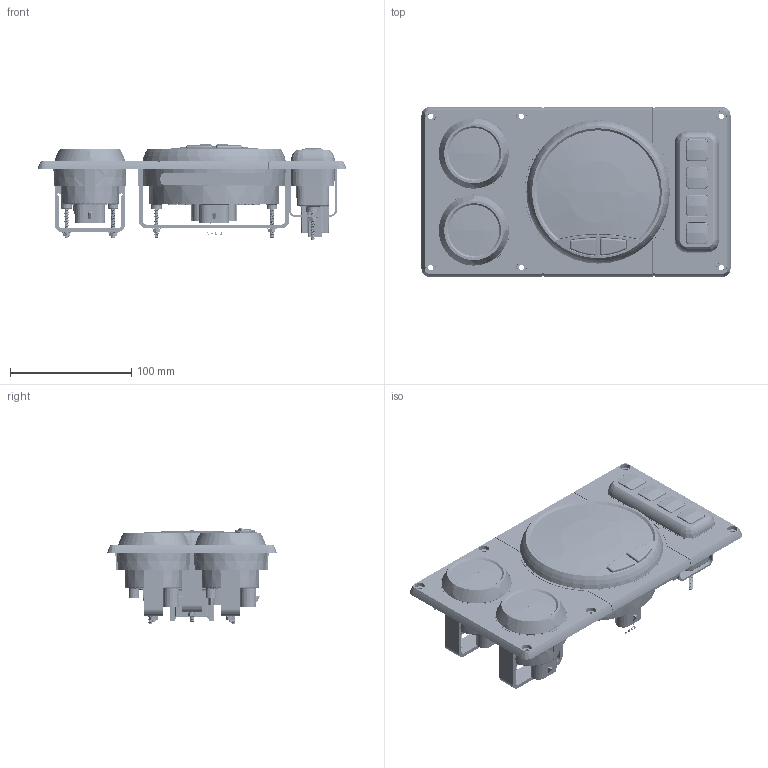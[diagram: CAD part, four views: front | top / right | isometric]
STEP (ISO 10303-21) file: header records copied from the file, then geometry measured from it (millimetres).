
FILE_DESCRIPTION((''),'2;1');
FILE_NAME('0_C35_PANEL_ASM','2018-12-21T',('ib46307'),(''),'PRO/ENGINEER BY PARAMETRIC TECHNOLOGY CORPORATION, 2015360','PRO/ENGINEER BY PARAMETRIC TECHNOLOGY CORPORATION, 2015360','');
FILE_SCHEMA(('CONFIG_CONTROL_DESIGN'));
Length unit declared in the file: inch
Products named in the file (149): 4571-11045-01_1; 4554-11009-01_1; 8720-00002-01_1; PRT0001; FES-2INCH-LABEL_1; 8720-00002-01_ASM_1_ASM; 5509-11716-01_1; PRT0002; PRT0003; PRT0004; 5509-11716-02S_ASM_1_ASM; 5551-10542-03_1; 8722-00000-01_1; 3544-10210-01_1; 8723-001XX-01_1; 8723-00208-01_GRAPHIC_1; 8723-00208-01_ASM_1_ASM; 8726-46000-01_1; 8754-90015-01_1; 8724-03001-01_1; 8724-04001-03_ASM_1_ASM; 8725-00000-02_1; 8726-00000-01_1; 4531-10625-01_1; 8000-01380-01_1; 2525-10054-02_1; 8620-00217-01_ASM_1_ASM; 4522-10448-01_1; PRT0009; PRT0010; GAUGE2_ASM; PRT0005; PRT0006; 8723-00207-01_GRAPHIC_1; 8723-00207-01_ASM_1_ASM; PRT0007; 8000-01379-01_1; PRT0008; 8620-00216-01_ASM_1_ASM; GAUGE1_ASM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
Assembly tree (232 placements, depth 9):
  0_C35_PANEL_ASM
    8960-00214-01_ASM_1_ASM
      4571-11045-01_1
      GAUGE2_ASM
        4554-11009-01_1
        8620-00217-01_ASM_1_ASM
          8720-00002-01_ASM_1_ASM
            8720-00002-01_1
            PRT0001  x2
            FES-2INCH-LABEL_1
          5509-11716-02S_ASM_1_ASM
            5509-11716-01_1
            PRT0002
            PRT0003  x3
            PRT0004
          5551-10542-03_1
          8722-00000-01_1
          3544-10210-01_1  x2
          8723-00208-01_ASM_1_ASM
            8723-001XX-01_1
            8723-00208-01_GRAPHIC_1
          8726-46000-01_1
          8724-04001-03_ASM_1_ASM
            8754-90015-01_1
            8724-03001-01_1
          8725-00000-02_1
          8726-00000-01_1
          4531-10625-01_1
          8000-01380-01_1
          2525-10054-02_1
        4522-10448-01_1
        PRT0009  x2
        PRT0010  x2
      GAUGE1_ASM
        4554-11009-01_1
        8620-00216-01_ASM_1_ASM
          8720-00002-01_ASM_1_ASM
            8720-00002-01_1
            PRT0001  x2
            FES-2INCH-LABEL_1
          5509-11716-02S_ASM_1_ASM
            5509-11716-01_1
            PRT0002
            PRT0003  x3
            PRT0004
          PRT0005
          8722-00000-01_1
          PRT0006  x2
          8723-00207-01_ASM_1_ASM
            8723-001XX-01_1
            8723-00207-01_GRAPHIC_1
          8726-46000-01_1
          8724-04001-03_ASM_1_ASM
            8754-90015-01_1
            8724-03001-01_1
          8725-00000-02_1
          8726-00000-01_1
          PRT0007
          8000-01379-01_1
          PRT0008
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Bounding box: 254.99 x 139.95 x 78.85 mm (x, y, z)
Volume: 472651 mm3; surface area: 539930.8 mm2
Topology: 204 solids, 204 shells, 19445 faces, 54127 edges, 35511 vertices
Faces by surface type: plane 10636, cylinder 4313, cone 1742, bspline 1593, torus 839, sphere 291, extrusion 23, revolution 8
Entity records: 513236 total; most frequent: CARTESIAN_POINT 183547, ORIENTED_EDGE 71400, DIRECTION 63588, EDGE_CURVE 35700, VERTEX_POINT 23321, VECTOR 22618, LINE 22595, AXIS2_PLACEMENT_3D 20484
